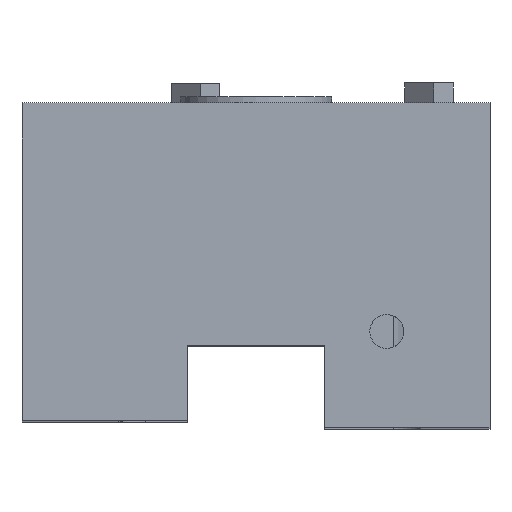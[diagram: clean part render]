
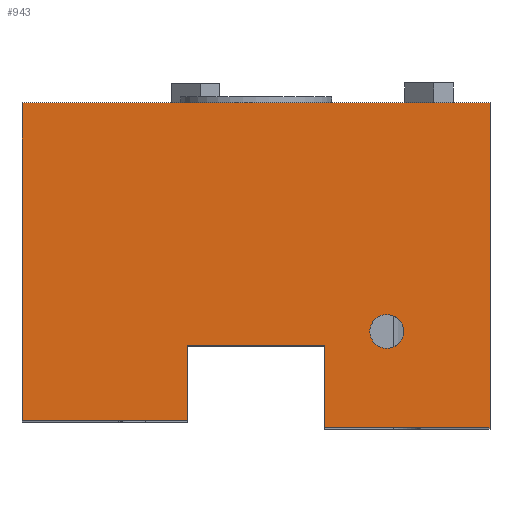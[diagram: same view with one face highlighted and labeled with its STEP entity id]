
A CAD part, top view. The second image highlights one B-rep face of the part: STEP entity #943.
In plain terms, the highlighted planar face has unit normal (0, 0, 1).
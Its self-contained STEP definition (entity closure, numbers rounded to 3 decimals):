
#21=LINE('',#1349,#116);
#36=LINE('',#1386,#131);
#74=LINE('',#1509,#169);
#78=LINE('',#1516,#173);
#79=LINE('',#1518,#174);
#80=LINE('',#1520,#175);
#81=LINE('',#1522,#176);
#82=LINE('',#1523,#177);
#116=VECTOR('',#1080,34.);
#131=VECTOR('',#1105,23.1);
#169=VECTOR('',#1201,12.);
#173=VECTOR('',#1209,5.5);
#174=VECTOR('',#1210,10.);
#175=VECTOR('',#1211,6.);
#176=VECTOR('',#1212,12.);
#177=VECTOR('',#1213,23.6);
#218=PLANE('',#1020);
#259=FACE_BOUND('',#361,.T.);
#292=FACE_OUTER_BOUND('',#360,.T.);
#360=EDGE_LOOP('',(#777,#778,#779,#780,#781,#782,#783,#784));
#361=EDGE_LOOP('',(#785));
#431=CIRCLE('',#1017,1.23);
#448=VERTEX_POINT('',#1346);
#449=VERTEX_POINT('',#1348);
#466=VERTEX_POINT('',#1384);
#506=VERTEX_POINT('',#1504);
#507=VERTEX_POINT('',#1507);
#508=VERTEX_POINT('',#1515);
#509=VERTEX_POINT('',#1517);
#510=VERTEX_POINT('',#1519);
#511=VERTEX_POINT('',#1521);
#539=EDGE_CURVE('',#449,#448,#21,.T.);
#558=EDGE_CURVE('',#466,#448,#36,.T.);
#610=EDGE_CURVE('',#506,#506,#431,.T.);
#612=EDGE_CURVE('',#466,#507,#74,.T.);
#616=EDGE_CURVE('',#507,#508,#78,.T.);
#617=EDGE_CURVE('',#508,#509,#79,.T.);
#618=EDGE_CURVE('',#509,#510,#80,.T.);
#619=EDGE_CURVE('',#510,#511,#81,.T.);
#620=EDGE_CURVE('',#511,#449,#82,.T.);
#777=ORIENTED_EDGE('',*,*,#539,.T.);
#778=ORIENTED_EDGE('',*,*,#558,.F.);
#779=ORIENTED_EDGE('',*,*,#612,.T.);
#780=ORIENTED_EDGE('',*,*,#616,.T.);
#781=ORIENTED_EDGE('',*,*,#617,.T.);
#782=ORIENTED_EDGE('',*,*,#618,.T.);
#783=ORIENTED_EDGE('',*,*,#619,.T.);
#784=ORIENTED_EDGE('',*,*,#620,.T.);
#785=ORIENTED_EDGE('',*,*,#610,.T.);
#943=ADVANCED_FACE('',(#292,#259),#218,.T.);
#1017=AXIS2_PLACEMENT_3D('',#1505,#1196,#1197);
#1020=AXIS2_PLACEMENT_3D('',#1514,#1207,#1208);
#1080=DIRECTION('',(-1.,0.,0.));
#1105=DIRECTION('',(0.,1.,0.));
#1196=DIRECTION('center_axis',(0.,0.,-1.));
#1197=DIRECTION('ref_axis',(1.,0.,0.));
#1201=DIRECTION('',(1.,0.,0.));
#1207=DIRECTION('center_axis',(0.,0.,1.));
#1208=DIRECTION('ref_axis',(1.,0.,0.));
#1209=DIRECTION('',(0.,1.,0.));
#1210=DIRECTION('',(1.,0.,0.));
#1211=DIRECTION('',(0.,-1.,0.));
#1212=DIRECTION('',(1.,0.,0.));
#1213=DIRECTION('',(0.,1.,0.));
#1346=CARTESIAN_POINT('',(-17.,23.6,30.));
#1348=CARTESIAN_POINT('',(17.,23.6,30.));
#1349=CARTESIAN_POINT('',(-8.406,23.6,30.));
#1384=CARTESIAN_POINT('',(-17.,0.5,30.));
#1386=CARTESIAN_POINT('',(-17.,0.,30.));
#1504=CARTESIAN_POINT('',(10.73,7.,30.));
#1505=CARTESIAN_POINT('Origin',(9.5,7.,30.));
#1507=CARTESIAN_POINT('',(-5.,0.5,30.));
#1509=CARTESIAN_POINT('',(-14.75,0.5,30.));
#1514=CARTESIAN_POINT('Origin',(-17.,0.,30.));
#1515=CARTESIAN_POINT('',(-5.,6.,30.));
#1516=CARTESIAN_POINT('',(-5.,0.,30.));
#1517=CARTESIAN_POINT('',(5.,6.,30.));
#1518=CARTESIAN_POINT('',(-7.25,6.,30.));
#1519=CARTESIAN_POINT('',(5.,0.,30.));
#1520=CARTESIAN_POINT('',(5.,0.,30.));
#1521=CARTESIAN_POINT('',(17.,0.,30.));
#1522=CARTESIAN_POINT('',(-17.,0.,30.));
#1523=CARTESIAN_POINT('',(17.,0.,30.));
